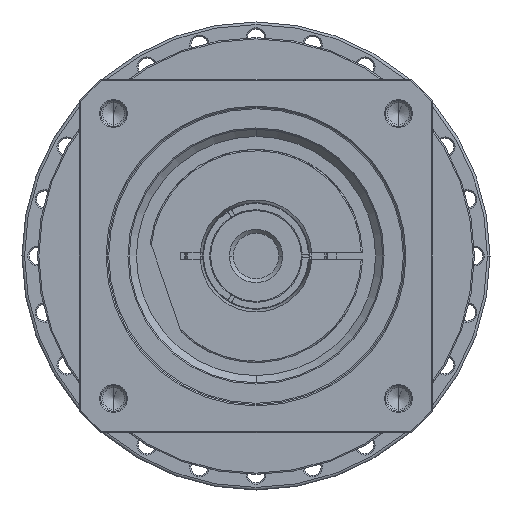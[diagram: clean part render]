
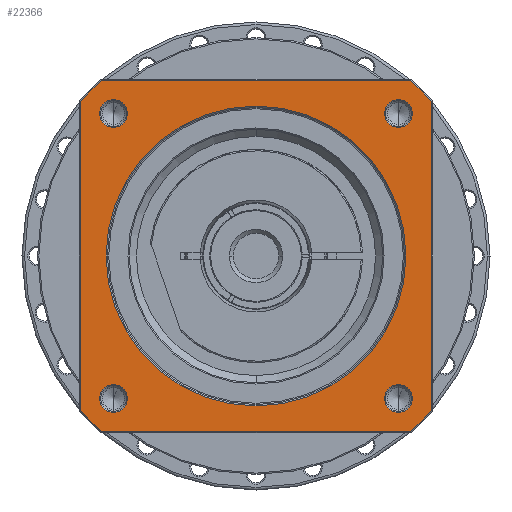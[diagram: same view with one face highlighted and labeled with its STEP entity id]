
A CAD part, left-side view. The second image highlights one B-rep face of the part: STEP entity #22366.
In plain terms, the highlighted planar face has unit normal (-1, 0, 0) as drawn and (0, 0, 1) by its records, which use the part's own axes.
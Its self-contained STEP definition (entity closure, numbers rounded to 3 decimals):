
#21097=DIRECTION('',(1.,0.,0.));
#21098=VECTOR('',#21097,119.059);
#21099=CARTESIAN_POINT('',(-59.529,-67.5,41.));
#21100=LINE('',#21099,#21098);
#21110=CARTESIAN_POINT('',(0.,0.,
41.));
#21111=DIRECTION('',(0.,0.,-1.));
#21112=DIRECTION('',(0.,-1.,0.));
#21113=AXIS2_PLACEMENT_3D('',#21110,#21111,#21112);
#21115=CARTESIAN_POINT('',(0.,0.,
41.));
#21116=DIRECTION('',(0.,0.,-1.));
#21117=DIRECTION('',(0.,1.,0.));
#21118=AXIS2_PLACEMENT_3D('',#21115,#21116,#21117);
#21120=CARTESIAN_POINT('',(0.,0.,41.));
#21121=DIRECTION('',(0.,0.,1.));
#21122=DIRECTION('',(-0.75,-0.661,0.));
#21123=AXIS2_PLACEMENT_3D('',#21120,#21121,#21122);
#21135=DIRECTION('',(0.,-1.,0.));
#21136=VECTOR('',#21135,119.059);
#21137=CARTESIAN_POINT('',(-67.5,59.529,41.));
#21138=LINE('',#21137,#21136);
#21148=CARTESIAN_POINT('',(0.,0.,41.));
#21149=DIRECTION('',(0.,0.,1.));
#21150=DIRECTION('',(-0.661,0.75,0.));
#21151=AXIS2_PLACEMENT_3D('',#21148,#21149,#21150);
#21176=DIRECTION('',(-1.,0.,0.));
#21177=VECTOR('',#21176,119.059);
#21178=CARTESIAN_POINT('',(59.529,67.5,41.));
#21179=LINE('',#21178,#21177);
#21184=CARTESIAN_POINT('',(0.,0.,41.));
#21185=DIRECTION('',(0.,0.,1.));
#21186=DIRECTION('',(0.75,0.661,0.));
#21187=AXIS2_PLACEMENT_3D('',#21184,#21185,#21186);
#21199=DIRECTION('',(0.,1.,0.));
#21200=VECTOR('',#21199,119.059);
#21201=CARTESIAN_POINT('',(67.5,-59.529,41.));
#21202=LINE('',#21201,#21200);
#21304=CARTESIAN_POINT('',(0.,0.,41.));
#21305=DIRECTION('',(0.,0.,1.));
#21306=DIRECTION('',(0.661,-0.75,0.));
#21307=AXIS2_PLACEMENT_3D('',#21304,#21305,#21306);
#21583=CARTESIAN_POINT('',(-54.801,54.801,41.));
#21584=DIRECTION('',(0.,0.,1.));
#21585=DIRECTION('',(-1.,0.,0.));
#21586=AXIS2_PLACEMENT_3D('',#21583,#21584,#21585);
#21601=CARTESIAN_POINT('',(-54.801,54.801,41.));
#21602=DIRECTION('',(0.,0.,1.));
#21603=DIRECTION('',(1.,0.,0.));
#21604=AXIS2_PLACEMENT_3D('',#21601,#21602,#21603);
#21637=CARTESIAN_POINT('',(54.801,54.801,41.));
#21638=DIRECTION('',(0.,0.,1.));
#21639=DIRECTION('',(-1.,0.,0.));
#21640=AXIS2_PLACEMENT_3D('',#21637,#21638,#21639);
#21655=CARTESIAN_POINT('',(54.801,54.801,41.));
#21656=DIRECTION('',(0.,0.,1.));
#21657=DIRECTION('',(1.,0.,0.));
#21658=AXIS2_PLACEMENT_3D('',#21655,#21656,#21657);
#21691=CARTESIAN_POINT('',(54.801,-54.801,41.));
#21692=DIRECTION('',(0.,0.,1.));
#21693=DIRECTION('',(-1.,0.,0.));
#21694=AXIS2_PLACEMENT_3D('',#21691,#21692,#21693);
#21709=CARTESIAN_POINT('',(54.801,-54.801,41.));
#21710=DIRECTION('',(0.,0.,1.));
#21711=DIRECTION('',(1.,0.,0.));
#21712=AXIS2_PLACEMENT_3D('',#21709,#21710,#21711);
#21745=CARTESIAN_POINT('',(-54.801,-54.801,41.));
#21746=DIRECTION('',(0.,0.,1.));
#21747=DIRECTION('',(-1.,0.,0.));
#21748=AXIS2_PLACEMENT_3D('',#21745,#21746,#21747);
#21763=CARTESIAN_POINT('',(-54.801,-54.801,41.));
#21764=DIRECTION('',(0.,0.,1.));
#21765=DIRECTION('',(1.,0.,0.));
#21766=AXIS2_PLACEMENT_3D('',#21763,#21764,#21765);
#21807=CARTESIAN_POINT('',(67.5,-59.529,41.));
#21808=CARTESIAN_POINT('',(67.5,59.529,41.));
#21809=VERTEX_POINT('',#21807);
#21810=VERTEX_POINT('',#21808);
#21815=CARTESIAN_POINT('',(59.529,-67.5,41.));
#21816=VERTEX_POINT('',#21815);
#21819=CARTESIAN_POINT('',(-59.529,-67.5,41.));
#21820=VERTEX_POINT('',#21819);
#21823=CARTESIAN_POINT('',(-67.5,-59.529,41.));
#21824=VERTEX_POINT('',#21823);
#21827=CARTESIAN_POINT('',(-67.5,59.529,41.));
#21828=VERTEX_POINT('',#21827);
#21831=CARTESIAN_POINT('',(-59.529,67.5,41.));
#21832=VERTEX_POINT('',#21831);
#21835=CARTESIAN_POINT('',(59.529,67.5,41.));
#21836=VERTEX_POINT('',#21835);
#21885=CARTESIAN_POINT('',(-60.151,54.801,41.));
#21886=CARTESIAN_POINT('',(-49.451,54.801,41.));
#21887=VERTEX_POINT('',#21885);
#21888=VERTEX_POINT('',#21886);
#21919=CARTESIAN_POINT('',(60.151,54.801,41.));
#21920=CARTESIAN_POINT('',(49.451,54.801,41.));
#21921=VERTEX_POINT('',#21919);
#21922=VERTEX_POINT('',#21920);
#21927=CARTESIAN_POINT('',(60.151,-54.801,41.));
#21928=CARTESIAN_POINT('',(49.451,-54.801,41.));
#21929=VERTEX_POINT('',#21927);
#21930=VERTEX_POINT('',#21928);
#21935=CARTESIAN_POINT('',(-49.451,-54.801,41.));
#21936=CARTESIAN_POINT('',(-60.151,-54.801,41.));
#21937=VERTEX_POINT('',#21935);
#21938=VERTEX_POINT('',#21936);
#21943=CARTESIAN_POINT('',(0.,-57.65,41.));
#21944=CARTESIAN_POINT('',(0.,57.65,
41.));
#21945=VERTEX_POINT('',#21943);
#21946=VERTEX_POINT('',#21944);
#22314=CARTESIAN_POINT('',(0.,0.,41.));
#22315=DIRECTION('',(0.,0.,1.));
#22316=DIRECTION('',(1.,0.,0.));
#22317=AXIS2_PLACEMENT_3D('',#22314,#22315,#22316);
#22318=PLANE('',#22317);
#22320=ORIENTED_EDGE('',*,*,#22319,.F.);
#22322=ORIENTED_EDGE('',*,*,#22321,.F.);
#22324=ORIENTED_EDGE('',*,*,#22323,.F.);
#22326=ORIENTED_EDGE('',*,*,#22325,.F.);
#22328=ORIENTED_EDGE('',*,*,#22327,.F.);
#22330=ORIENTED_EDGE('',*,*,#22329,.F.);
#22332=ORIENTED_EDGE('',*,*,#22331,.F.);
#22333=ORIENTED_EDGE('',*,*,#22304,.F.);
#22334=EDGE_LOOP('',(#22320,#22322,#22324,#22326,#22328,#22330,#22332,#22333));
#22335=FACE_OUTER_BOUND('',#22334,.F.);
#22337=ORIENTED_EDGE('',*,*,#22336,.F.);
#22339=ORIENTED_EDGE('',*,*,#22338,.F.);
#22340=EDGE_LOOP('',(#22337,#22339));
#22341=FACE_BOUND('',#22340,.F.);
#22343=ORIENTED_EDGE('',*,*,#22342,.T.);
#22345=ORIENTED_EDGE('',*,*,#22344,.T.);
#22346=EDGE_LOOP('',(#22343,#22345));
#22347=FACE_BOUND('',#22346,.F.);
#22349=ORIENTED_EDGE('',*,*,#22348,.T.);
#22351=ORIENTED_EDGE('',*,*,#22350,.T.);
#22352=EDGE_LOOP('',(#22349,#22351));
#22353=FACE_BOUND('',#22352,.F.);
#22355=ORIENTED_EDGE('',*,*,#22354,.T.);
#22357=ORIENTED_EDGE('',*,*,#22356,.T.);
#22358=EDGE_LOOP('',(#22355,#22357));
#22359=FACE_BOUND('',#22358,.F.);
#22361=ORIENTED_EDGE('',*,*,#22360,.T.);
#22363=ORIENTED_EDGE('',*,*,#22362,.T.);
#22364=EDGE_LOOP('',(#22361,#22363));
#22365=FACE_BOUND('',#22364,.F.);
#22366=ADVANCED_FACE('',(#22335,#22341,#22347,#22353,#22359,#22365),#22318,.T.);
#21114=CIRCLE('',#21113,57.65);
#21119=CIRCLE('',#21118,57.65);
#21124=CIRCLE('',#21123,90.);
#21152=CIRCLE('',#21151,90.);
#21188=CIRCLE('',#21187,90.);
#21308=CIRCLE('',#21307,90.);
#21587=CIRCLE('',#21586,5.35);
#21605=CIRCLE('',#21604,5.35);
#21641=CIRCLE('',#21640,5.35);
#21659=CIRCLE('',#21658,5.35);
#21695=CIRCLE('',#21694,5.35);
#21713=CIRCLE('',#21712,5.35);
#21749=CIRCLE('',#21748,5.35);
#21767=CIRCLE('',#21766,5.35);
#22304=EDGE_CURVE('',#21820,#21816,#21100,.T.);
#22319=EDGE_CURVE('',#21824,#21820,#21124,.T.);
#22321=EDGE_CURVE('',#21828,#21824,#21138,.T.);
#22323=EDGE_CURVE('',#21832,#21828,#21152,.T.);
#22325=EDGE_CURVE('',#21836,#21832,#21179,.T.);
#22327=EDGE_CURVE('',#21810,#21836,#21188,.T.);
#22329=EDGE_CURVE('',#21809,#21810,#21202,.T.);
#22331=EDGE_CURVE('',#21816,#21809,#21308,.T.);
#22336=EDGE_CURVE('',#21945,#21946,#21114,.T.);
#22338=EDGE_CURVE('',#21946,#21945,#21119,.T.);
#22342=EDGE_CURVE('',#21887,#21888,#21587,.T.);
#22344=EDGE_CURVE('',#21888,#21887,#21605,.T.);
#22348=EDGE_CURVE('',#21922,#21921,#21641,.T.);
#22350=EDGE_CURVE('',#21921,#21922,#21659,.T.);
#22354=EDGE_CURVE('',#21930,#21929,#21695,.T.);
#22356=EDGE_CURVE('',#21929,#21930,#21713,.T.);
#22360=EDGE_CURVE('',#21938,#21937,#21749,.T.);
#22362=EDGE_CURVE('',#21937,#21938,#21767,.T.);
